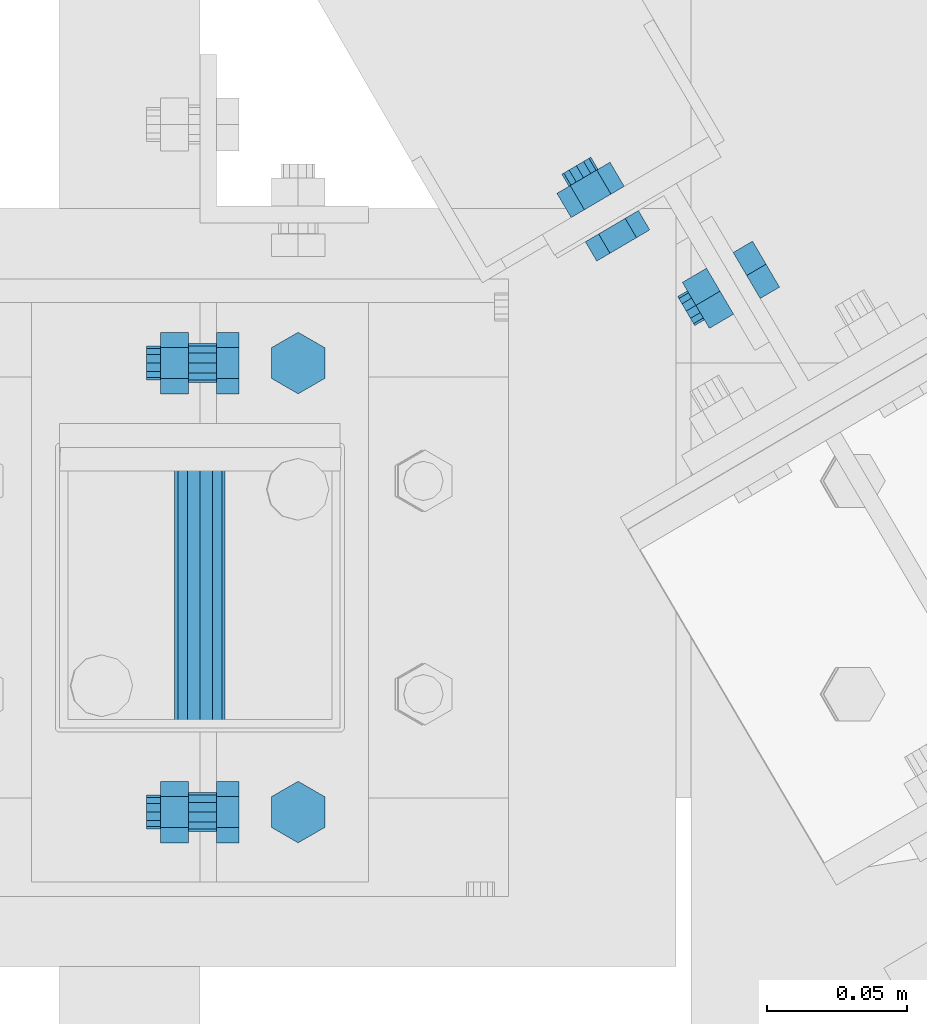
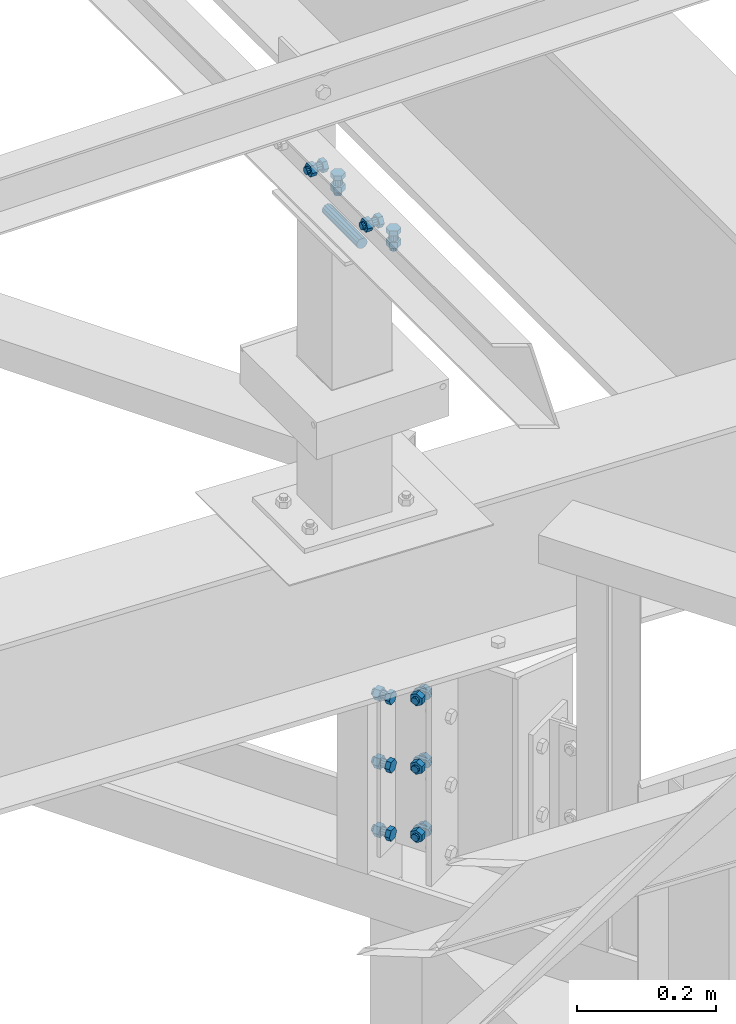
# One storey, part 12 of 3134: 5 mechanical fasteners, 3 elements without a shape of their own.
"""IFC2X3 building model written with IfcOpenShell, lengths in millimetres."""

from ifc_helpers import new_model, si_unit, frame, origin_with_axes, place, context, subcontext, project, spatial, faceted_brep, source, transform, mapped, material, type_object, element, aggregate, save


model = new_model("IFC2X3")

# Units and contexts
model_context = context("Model", 3, precision=1e-05, world=origin_with_axes())
body_context = subcontext(model_context, "Body", "Model", "MODEL_VIEW")
ifc_project = project(units=[si_unit("LENGTHUNIT", "METRE", prefix="MILLI"), si_unit("AREAUNIT", "SQUARE_METRE"), si_unit("VOLUMEUNIT", "CUBIC_METRE"), si_unit("MASSUNIT", "GRAM", prefix="KILO"), si_unit("TIMEUNIT", "SECOND"), si_unit("PLANEANGLEUNIT", "RADIAN"), si_unit("SOLIDANGLEUNIT", "STERADIAN"), si_unit("THERMODYNAMICTEMPERATUREUNIT", "DEGREE_CELSIUS"), si_unit("LUMINOUSINTENSITYUNIT", "LUMEN")], contexts=[model_context])

# Site, building, storey
site_placement = place(None, origin_with_axes())
site = spatial("IfcSite", under=ifc_project, at=site_placement, CompositionType="ELEMENT")
building_placement = place(site_placement, origin_with_axes())
building = spatial("IfcBuilding", under=site, at=building_placement, Name="Undefined", CompositionType="ELEMENT")
storey_placement = place(building_placement, origin_with_axes())
storey = spatial("IfcBuildingStorey", under=building, at=storey_placement, Name="Undefined", CompositionType="ELEMENT", Elevation=0.0)

# Assembly, mechanical fastener
assembly_1_placement = place(storey_placement, origin_with_axes())
assembly_1 = element("IfcElementAssembly", 1, at=assembly_1_placement, inside=storey, AssemblyPlace="NOTDEFINED", PredefinedType="RIGID_FRAME")
ifc_material = material(Name="8.8")
mechanical_fastener_type = type_object("IfcMechanicalFastenerType", Name="Bolt assembly")
shared_shape_1 = source(origin_with_axes(), body_context, "Body", "Brep", [
    faceted_brep([(10.9696551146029, -14.0, 0.0), (5.48482755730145, -14.0, 9.5), (-5.48482755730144, -14.0, 9.5), (-10.9696551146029, -14.0, 1.34339530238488e-15), (-5.48482755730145, -14.0, -9.5), (5.48482755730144, -14.0, -9.50000000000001), (5.48482755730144, -6.0, -9.50000000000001), (-5.48482755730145, -6.0, -9.5), (-10.9696551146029, -6.0, 1.34339530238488e-15), (-5.48482755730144, -6.0, 9.5), (5.48482755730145, -6.0, 9.5), (10.9696551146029, -6.0, 0.0), (6.0, -6.0, 0.0), (5.19615242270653, -6.0, 3.00000000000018), (2.99999999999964, -6.0, 5.19615242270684), (-6.21801588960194e-13, -6.0, 6.0), (-3.00000000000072, -6.0, 5.19615242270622), (-5.19615242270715, -6.0, 2.9999999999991), (-6.0, -6.0, -1.24360317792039e-12), (-5.19615242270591, -6.0, -3.00000000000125), (-2.99999999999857, -6.0, -5.19615242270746), (1.85874342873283e-12, -6.0, -6.0), (3.00000000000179, -6.0, -5.1961524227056), (5.19615242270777, -6.0, -2.99999999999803), (5.19615242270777, 24.0, -2.99999999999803), (3.00000000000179, 24.0, -5.1961524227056), (1.85874342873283e-12, 24.0, -6.0), (-2.99999999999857, 24.0, -5.19615242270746), (-5.19615242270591, 24.0, -3.00000000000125), (-6.0, 24.0, -1.24360317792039e-12), (-5.19615242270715, 24.0, 2.9999999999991), (-3.00000000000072, 24.0, 5.19615242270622), (-6.21801588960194e-13, 24.0, 6.0), (2.99999999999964, 24.0, 5.19615242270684), (5.19615242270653, 24.0, 3.00000000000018), (6.0, 24.0, 0.0), (10.9696551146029, 6.00000000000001, 0.0), (5.48482755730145, 6.00000000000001, 9.5), (-5.48482755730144, 6.00000000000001, 9.5), (-10.9696551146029, 6.00000000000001, 1.34339530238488e-15), (-5.48482755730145, 6.00000000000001, -9.5), (5.48482755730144, 6.00000000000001, -9.50000000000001), (5.48482755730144, 16.0, -9.50000000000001), (-5.48482755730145, 16.0, -9.5), (-10.9696551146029, 16.0, 1.34339530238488e-15), (-5.48482755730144, 16.0, 9.5), (5.48482755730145, 16.0, 9.5), (10.9696551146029, 16.0, 0.0)], [[[0, 1, 2, 3, 4, 5]], [[6, 7, 8, 9, 10, 11]], [[0, 11, 10, 1]], [[1, 10, 9, 2]], [[2, 9, 8, 3]], [[3, 8, 7, 4]], [[4, 7, 6, 5]], [[5, 6, 11, 0]], [[12, 13, 14, 15, 16, 17, 18, 19, 20, 21, 22, 23]], [[24, 25, 26, 27, 28, 29, 30, 31, 32, 33, 34, 35]], [[12, 35, 34, 13]], [[13, 34, 33, 14]], [[14, 33, 32, 15]], [[15, 32, 31, 16]], [[16, 31, 30, 17]], [[17, 30, 29, 18]], [[18, 29, 28, 19]], [[19, 28, 27, 20]], [[20, 27, 26, 21]], [[21, 26, 25, 22]], [[22, 25, 24, 23]], [[23, 24, 35, 12]], [[36, 37, 38, 39, 40, 41]], [[42, 43, 44, 45, 46, 47]], [[36, 47, 46, 37]], [[37, 46, 45, 38]], [[38, 45, 44, 39]], [[39, 44, 43, 40]], [[40, 43, 42, 41]], [[41, 42, 47, 36]]]),
    faceted_brep([(7.0, -5.9, 0.0), (6.06217782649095, -5.9, 3.50000000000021), (3.49999999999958, -5.9, 6.06217782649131), (-7.25435187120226e-13, -5.9, 7.0), (-3.50000000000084, -5.9, 6.06217782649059), (-6.06217782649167, -5.9, 3.49999999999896), (-7.0, -5.9, -1.45087037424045e-12), (-6.06217782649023, -5.9, -3.50000000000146), (-3.49999999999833, -5.9, -6.06217782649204), (2.1685340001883e-12, -5.9, -7.0), (3.50000000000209, -5.9, -6.06217782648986), (6.0621778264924, -5.9, -3.4999999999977), (6.0621778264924, 0.0999999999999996, -3.4999999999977), (3.50000000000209, 0.0999999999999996, -6.06217782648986), (2.1685340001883e-12, 0.0999999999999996, -7.0), (-3.49999999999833, 0.0999999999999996, -6.06217782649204), (-6.06217782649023, 0.0999999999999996, -3.50000000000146), (-7.0, 0.0999999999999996, -1.45087037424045e-12), (-6.06217782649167, 0.0999999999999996, 3.49999999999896), (-3.50000000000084, 0.0999999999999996, 6.06217782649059), (-7.25435187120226e-13, 0.0999999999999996, 7.0), (3.49999999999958, 0.0999999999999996, 6.06217782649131), (6.06217782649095, 0.0999999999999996, 3.50000000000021), (7.0, 0.0999999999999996, 0.0), (7.0, -0.1, 0.0), (6.06217782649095, -0.1, 3.50000000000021), (3.49999999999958, -0.1, 6.06217782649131), (-7.25435187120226e-13, -0.1, 7.0), (-3.50000000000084, -0.1, 6.06217782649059), (-6.06217782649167, -0.1, 3.49999999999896), (-7.0, -0.1, -1.45087037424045e-12), (-6.06217782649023, -0.1, -3.50000000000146), (-3.49999999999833, -0.1, -6.06217782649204), (2.1685340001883e-12, -0.1, -7.0), (3.50000000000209, -0.1, -6.06217782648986), (6.0621778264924, -0.1, -3.4999999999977), (6.0621778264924, 6.00000000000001, -3.4999999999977), (3.50000000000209, 6.00000000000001, -6.06217782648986), (2.1685340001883e-12, 6.00000000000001, -7.0), (-3.49999999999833, 6.00000000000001, -6.06217782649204), (-6.06217782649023, 6.00000000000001, -3.50000000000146), (-7.0, 6.00000000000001, -1.45087037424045e-12), (-6.06217782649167, 6.00000000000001, 3.49999999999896), (-3.50000000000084, 6.00000000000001, 6.06217782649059), (-7.25435187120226e-13, 6.00000000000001, 7.0), (3.49999999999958, 6.00000000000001, 6.06217782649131), (6.06217782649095, 6.00000000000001, 3.50000000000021), (7.0, 6.00000000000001, 0.0)], [[[0, 1, 2, 3, 4, 5, 6, 7, 8, 9, 10, 11]], [[12, 13, 14, 15, 16, 17, 18, 19, 20, 21, 22, 23]], [[0, 23, 22, 1]], [[1, 22, 21, 2]], [[2, 21, 20, 3]], [[3, 20, 19, 4]], [[4, 19, 18, 5]], [[5, 18, 17, 6]], [[6, 17, 16, 7]], [[7, 16, 15, 8]], [[8, 15, 14, 9]], [[9, 14, 13, 10]], [[10, 13, 12, 11]], [[11, 12, 23, 0]], [[24, 25, 26, 27, 28, 29, 30, 31, 32, 33, 34, 35]], [[36, 37, 38, 39, 40, 41, 42, 43, 44, 45, 46, 47]], [[24, 47, 46, 25]], [[25, 46, 45, 26]], [[26, 45, 44, 27]], [[27, 44, 43, 28]], [[28, 43, 42, 29]], [[29, 42, 41, 30]], [[30, 41, 40, 31]], [[31, 40, 39, 32]], [[32, 39, 38, 33]], [[33, 38, 37, 34]], [[34, 37, 36, 35]], [[35, 36, 47, 24]]]),
])
mechanical_fastener_1_placement = place(assembly_1_placement, frame((8375.0, 10850.0, 4265.0), z_axis=(-1.0, 0.0, 0.0), x_axis=(0.0, 1.0, 0.0)))
mechanical_fastener_1 = element("IfcMechanicalFastener", 2, at=mechanical_fastener_1_placement, type_object=mechanical_fastener_type, material=ifc_material, Name="Bolt assembly", NominalDiameter=12.0, NominalLength=30.0, context=body_context, shape_type="MappedRepresentation", body=[
    mapped(shared_shape_1, transform((0.0, 0.0, 0.0))),
    mapped(shared_shape_1, transform((160.0, 0.0, 0.0))),
])

assembly_2_placement = place(storey_placement, origin_with_axes())
assembly_2 = element("IfcElementAssembly", 3, at=assembly_2_placement, inside=storey, AssemblyPlace="NOTDEFINED", PredefinedType="RIGID_FRAME")
shared_shape_2 = source(origin_with_axes(), body_context, "Body", "Brep", [
    faceted_brep([(10.9696551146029, -14.0, 0.0), (5.48482755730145, -14.0, 9.5), (-5.48482755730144, -14.0, 9.5), (-10.9696551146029, -14.0, 1.34339530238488e-15), (-5.48482755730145, -14.0, -9.5), (5.48482755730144, -14.0, -9.50000000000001), (5.48482755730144, -6.0, -9.50000000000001), (-5.48482755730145, -6.0, -9.5), (-10.9696551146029, -6.0, 1.34339530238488e-15), (-5.48482755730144, -6.0, 9.5), (5.48482755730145, -6.0, 9.5), (10.9696551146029, -6.0, 0.0), (6.0, -6.0, 0.0), (5.19615242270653, -6.0, 3.00000000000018), (2.99999999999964, -6.0, 5.19615242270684), (-6.21801588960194e-13, -6.0, 6.0), (-3.00000000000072, -6.0, 5.19615242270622), (-5.19615242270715, -6.0, 2.9999999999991), (-6.0, -6.0, -1.24360317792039e-12), (-5.19615242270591, -6.0, -3.00000000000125), (-2.99999999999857, -6.0, -5.19615242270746), (1.85874342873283e-12, -6.0, -6.0), (3.00000000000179, -6.0, -5.1961524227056), (5.19615242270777, -6.0, -2.99999999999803), (5.19615242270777, 19.0, -2.99999999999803), (3.00000000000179, 19.0, -5.1961524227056), (1.85874342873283e-12, 19.0, -6.0), (-2.99999999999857, 19.0, -5.19615242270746), (-5.19615242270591, 19.0, -3.00000000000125), (-6.0, 19.0, -1.24360317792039e-12), (-5.19615242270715, 19.0, 2.9999999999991), (-3.00000000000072, 19.0, 5.19615242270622), (-6.21801588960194e-13, 19.0, 6.0), (2.99999999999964, 19.0, 5.19615242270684), (5.19615242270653, 19.0, 3.00000000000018), (6.0, 19.0, 0.0), (10.9696551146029, 4.00000000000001, 0.0), (5.48482755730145, 4.00000000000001, 9.5), (-5.48482755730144, 4.00000000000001, 9.5), (-10.9696551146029, 4.00000000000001, 1.34339530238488e-15), (-5.48482755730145, 4.00000000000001, -9.5), (5.48482755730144, 4.00000000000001, -9.50000000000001), (5.48482755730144, 14.0, -9.50000000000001), (-5.48482755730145, 14.0, -9.5), (-10.9696551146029, 14.0, 1.34339530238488e-15), (-5.48482755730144, 14.0, 9.5), (5.48482755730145, 14.0, 9.5), (10.9696551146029, 14.0, 0.0)], [[[0, 1, 2, 3, 4, 5]], [[6, 7, 8, 9, 10, 11]], [[0, 11, 10, 1]], [[1, 10, 9, 2]], [[2, 9, 8, 3]], [[3, 8, 7, 4]], [[4, 7, 6, 5]], [[5, 6, 11, 0]], [[12, 13, 14, 15, 16, 17, 18, 19, 20, 21, 22, 23]], [[24, 25, 26, 27, 28, 29, 30, 31, 32, 33, 34, 35]], [[12, 35, 34, 13]], [[13, 34, 33, 14]], [[14, 33, 32, 15]], [[15, 32, 31, 16]], [[16, 31, 30, 17]], [[17, 30, 29, 18]], [[18, 29, 28, 19]], [[19, 28, 27, 20]], [[20, 27, 26, 21]], [[21, 26, 25, 22]], [[22, 25, 24, 23]], [[23, 24, 35, 12]], [[36, 37, 38, 39, 40, 41]], [[42, 43, 44, 45, 46, 47]], [[36, 47, 46, 37]], [[37, 46, 45, 38]], [[38, 45, 44, 39]], [[39, 44, 43, 40]], [[40, 43, 42, 41]], [[41, 42, 47, 36]]]),
    faceted_brep([(7.0, -0.1, 0.0), (6.06217782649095, -0.1, 3.50000000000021), (3.49999999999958, -0.1, 6.06217782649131), (-7.25435187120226e-13, -0.1, 7.0), (-3.50000000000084, -0.1, 6.06217782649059), (-6.06217782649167, -0.1, 3.49999999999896), (-7.0, -0.1, -1.45087037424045e-12), (-6.06217782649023, -0.1, -3.50000000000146), (-3.49999999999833, -0.1, -6.06217782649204), (2.1685340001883e-12, -0.1, -7.0), (3.50000000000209, -0.1, -6.06217782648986), (6.0621778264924, -0.1, -3.4999999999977), (6.0621778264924, 4.00000000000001, -3.4999999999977), (3.50000000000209, 4.00000000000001, -6.06217782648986), (2.1685340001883e-12, 4.00000000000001, -7.0), (-3.49999999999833, 4.00000000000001, -6.06217782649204), (-6.06217782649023, 4.00000000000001, -3.50000000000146), (-7.0, 4.00000000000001, -1.45087037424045e-12), (-6.06217782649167, 4.00000000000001, 3.49999999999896), (-3.50000000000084, 4.00000000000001, 6.06217782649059), (-7.25435187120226e-13, 4.00000000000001, 7.0), (3.49999999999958, 4.00000000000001, 6.06217782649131), (6.06217782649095, 4.00000000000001, 3.50000000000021), (7.0, 4.00000000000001, 0.0), (7.0, -5.9, 0.0), (6.06217782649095, -5.9, 3.50000000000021), (3.49999999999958, -5.9, 6.06217782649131), (-7.25435187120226e-13, -5.9, 7.0), (-3.50000000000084, -5.9, 6.06217782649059), (-6.06217782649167, -5.9, 3.49999999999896), (-7.0, -5.9, -1.45087037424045e-12), (-6.06217782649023, -5.9, -3.50000000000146), (-3.49999999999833, -5.9, -6.06217782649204), (2.1685340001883e-12, -5.9, -7.0), (3.50000000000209, -5.9, -6.06217782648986), (6.0621778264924, -5.9, -3.4999999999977), (6.0621778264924, 0.0999999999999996, -3.4999999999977), (3.50000000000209, 0.0999999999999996, -6.06217782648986), (2.1685340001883e-12, 0.0999999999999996, -7.0), (-3.49999999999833, 0.0999999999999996, -6.06217782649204), (-6.06217782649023, 0.0999999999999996, -3.50000000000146), (-7.0, 0.0999999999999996, -1.45087037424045e-12), (-6.06217782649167, 0.0999999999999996, 3.49999999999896), (-3.50000000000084, 0.0999999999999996, 6.06217782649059), (-7.25435187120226e-13, 0.0999999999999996, 7.0), (3.49999999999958, 0.0999999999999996, 6.06217782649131), (6.06217782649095, 0.0999999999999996, 3.50000000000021), (7.0, 0.0999999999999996, 0.0)], [[[0, 1, 2, 3, 4, 5, 6, 7, 8, 9, 10, 11]], [[12, 13, 14, 15, 16, 17, 18, 19, 20, 21, 22, 23]], [[0, 23, 22, 1]], [[1, 22, 21, 2]], [[2, 21, 20, 3]], [[3, 20, 19, 4]], [[4, 19, 18, 5]], [[5, 18, 17, 6]], [[6, 17, 16, 7]], [[7, 16, 15, 8]], [[8, 15, 14, 9]], [[9, 14, 13, 10]], [[10, 13, 12, 11]], [[11, 12, 23, 0]], [[24, 25, 26, 27, 28, 29, 30, 31, 32, 33, 34, 35]], [[36, 37, 38, 39, 40, 41, 42, 43, 44, 45, 46, 47]], [[24, 47, 46, 25]], [[25, 46, 45, 26]], [[26, 45, 44, 27]], [[27, 44, 43, 28]], [[28, 43, 42, 29]], [[29, 42, 41, 30]], [[30, 41, 40, 31]], [[31, 40, 39, 32]], [[32, 39, 38, 33]], [[33, 38, 37, 34]], [[34, 37, 36, 35]], [[35, 36, 47, 24]]]),
])
mechanical_fastener_2_placement = place(assembly_2_placement, frame((8340.0, 10850.0, 4300.0), z_axis=(0.0, 0.0, 1.0), x_axis=(0.0, 1.0, 0.0)))
mechanical_fastener_2 = element("IfcMechanicalFastener", 4, at=mechanical_fastener_2_placement, type_object=mechanical_fastener_type, material=ifc_material, Name="Bolt assembly", NominalDiameter=12.0, NominalLength=25.0, context=body_context, shape_type="MappedRepresentation", body=[
    mapped(shared_shape_2, transform((0.0, 0.0, 0.0))),
    mapped(shared_shape_2, transform((160.0, 0.0, 0.0))),
])
aggregate(assembly_2, [mechanical_fastener_2])

# Assembly, mechanical fasteners
assembly_3_placement = place(storey_placement, origin_with_axes())
assembly_3 = element("IfcElementAssembly", 5, at=assembly_3_placement, inside=storey, AssemblyPlace="NOTDEFINED", PredefinedType="RIGID_FRAME")
shared_shape_3 = source(origin_with_axes(), body_context, "Body", "Brep", [
    faceted_brep([(10.9696551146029, -10.499999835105, 0.0), (5.48482755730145, -10.499999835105, 9.5), (-5.48482755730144, -10.499999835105, 9.5), (-10.9696551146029, -10.499999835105, 1.34339530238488e-15), (-5.48482755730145, -10.499999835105, -9.5), (5.48482755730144, -10.499999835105, -9.50000000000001), (5.48482755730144, -2.49999983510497, -9.50000000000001), (-5.48482755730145, -2.49999983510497, -9.5), (-10.9696551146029, -2.49999983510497, 1.34339530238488e-15), (-5.48482755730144, -2.49999983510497, 9.5), (5.48482755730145, -2.49999983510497, 9.5), (10.9696551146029, -2.49999983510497, 0.0), (6.0, -2.49999983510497, 0.0), (5.19615242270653, -2.49999983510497, 3.00000000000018), (2.99999999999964, -2.49999983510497, 5.19615242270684), (-6.21801588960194e-13, -2.49999983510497, 6.0), (-3.00000000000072, -2.49999983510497, 5.19615242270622), (-5.19615242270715, -2.49999983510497, 2.9999999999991), (-6.0, -2.49999983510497, -1.24360317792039e-12), (-5.19615242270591, -2.49999983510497, -3.00000000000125), (-2.99999999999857, -2.49999983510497, -5.19615242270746), (1.85874342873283e-12, -2.49999983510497, -6.0), (3.00000000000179, -2.49999983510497, -5.1961524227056), (5.19615242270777, -2.49999983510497, -2.99999999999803), (5.19615242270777, 22.5, -2.99999999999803), (3.00000000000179, 22.5, -5.1961524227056), (1.85874342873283e-12, 22.5, -6.0), (-2.99999999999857, 22.5, -5.19615242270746), (-5.19615242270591, 22.5, -3.00000000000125), (-6.0, 22.5, -1.24360317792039e-12), (-5.19615242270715, 22.5, 2.9999999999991), (-3.00000000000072, 22.5, 5.19615242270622), (-6.21801588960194e-13, 22.5, 6.0), (2.99999999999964, 22.5, 5.19615242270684), (5.19615242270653, 22.5, 3.00000000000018), (6.0, 22.5, 0.0), (10.9696551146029, 8.50153105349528, 0.0), (5.48482755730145, 8.50153105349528, 9.5), (-5.48482755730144, 8.50153105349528, 9.5), (-10.9696551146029, 8.50153105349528, 1.34339530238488e-15), (-5.48482755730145, 8.50153105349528, -9.5), (5.48482755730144, 8.50153105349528, -9.50000000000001), (5.48482755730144, 18.5015310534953, -9.50000000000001), (-5.48482755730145, 18.5015310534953, -9.5), (-10.9696551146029, 18.5015310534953, 1.34339530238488e-15), (-5.48482755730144, 18.5015310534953, 9.5), (5.48482755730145, 18.5015310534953, 9.5), (10.9696551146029, 18.5015310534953, 0.0)], [[[0, 1, 2, 3, 4, 5]], [[6, 7, 8, 9, 10, 11]], [[0, 11, 10, 1]], [[1, 10, 9, 2]], [[2, 9, 8, 3]], [[3, 8, 7, 4]], [[4, 7, 6, 5]], [[5, 6, 11, 0]], [[12, 13, 14, 15, 16, 17, 18, 19, 20, 21, 22, 23]], [[24, 25, 26, 27, 28, 29, 30, 31, 32, 33, 34, 35]], [[12, 35, 34, 13]], [[13, 34, 33, 14]], [[14, 33, 32, 15]], [[15, 32, 31, 16]], [[16, 31, 30, 17]], [[17, 30, 29, 18]], [[18, 29, 28, 19]], [[19, 28, 27, 20]], [[20, 27, 26, 21]], [[21, 26, 25, 22]], [[22, 25, 24, 23]], [[23, 24, 35, 12]], [[36, 37, 38, 39, 40, 41]], [[42, 43, 44, 45, 46, 47]], [[36, 47, 46, 37]], [[37, 46, 45, 38]], [[38, 45, 44, 39]], [[39, 44, 43, 40]], [[40, 43, 42, 41]], [[41, 42, 47, 36]]]),
    faceted_brep([(7.0, -2.39999983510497, 7.0), (6.46715672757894, -2.39999983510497, 9.6787840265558), (4.94974746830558, -2.39999983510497, 11.9497474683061), (-7.25435187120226e-13, -2.39999983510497, 14.0), (-3.50000000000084, -2.39999983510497, 13.0621778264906), (-6.06217782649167, -2.39999983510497, 10.499999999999), (-7.0, -2.39999983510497, 6.99999999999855), (-7.0, -2.39999983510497, -7.00000000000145), (-6.06217782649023, -2.39999983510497, -10.5000000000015), (-3.49999999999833, -2.39999983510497, -13.062177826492), (2.1685340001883e-12, -2.39999983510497, -14.0), (3.50000000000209, -2.39999983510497, -13.0621778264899), (6.0621778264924, -2.39999983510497, -10.4999999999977), (7.0, -2.39999983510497, -6.9999999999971), (7.0, 2.60000016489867, -6.9999999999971), (6.0621778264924, 2.60000016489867, -10.4999999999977), (3.50000000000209, 2.60000016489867, -13.0621778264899), (2.1685340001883e-12, 2.60000016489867, -14.0), (-3.49999999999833, 2.60000016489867, -13.062177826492), (-6.06217782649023, 2.60000016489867, -10.5000000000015), (-7.0, 2.60000016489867, -7.00000000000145), (-7.0, 2.60000016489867, 6.99999999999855), (-6.06217782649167, 2.60000016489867, 10.499999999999), (-3.50000000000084, 2.60000016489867, 13.0621778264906), (-7.25435187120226e-13, 2.60000016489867, 14.0), (2.67878402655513, 2.60000016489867, 13.4671567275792), (4.94974746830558, 2.60000016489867, 11.9497474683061), (6.46715672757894, 2.60000016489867, 9.6787840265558), (7.0, 2.60000016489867, 7.0), (2.67878402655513, -2.39999983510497, 13.4671567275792), (7.0, 2.4015310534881, 0.0), (6.06217782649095, 2.4015310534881, 3.50000000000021), (3.49999999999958, 2.4015310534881, 6.06217782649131), (-7.25435187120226e-13, 2.4015310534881, 7.0), (-3.50000000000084, 2.4015310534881, 6.06217782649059), (-6.06217782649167, 2.4015310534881, 3.49999999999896), (-7.0, 2.4015310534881, -1.45087037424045e-12), (-6.06217782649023, 2.4015310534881, -3.50000000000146), (-3.49999999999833, 2.4015310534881, -6.06217782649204), (2.1685340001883e-12, 2.4015310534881, -7.0), (3.50000000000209, 2.4015310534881, -6.06217782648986), (6.0621778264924, 2.4015310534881, -3.4999999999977), (6.0621778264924, 8.50153105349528, -3.4999999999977), (3.50000000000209, 8.50153105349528, -6.06217782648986), (2.1685340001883e-12, 8.50153105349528, -7.0), (-3.49999999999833, 8.50153105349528, -6.06217782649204), (-6.06217782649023, 8.50153105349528, -3.50000000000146), (-7.0, 8.50153105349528, -1.45087037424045e-12), (-6.06217782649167, 8.50153105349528, 3.49999999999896), (-3.50000000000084, 8.50153105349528, 6.06217782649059), (-7.25435187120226e-13, 8.50153105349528, 7.0), (3.49999999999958, 8.50153105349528, 6.06217782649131), (6.06217782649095, 8.50153105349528, 3.50000000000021), (7.0, 8.50153105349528, 0.0)], [[[0, 1, 2, 3, 4, 5, 6, 7, 8, 9, 10, 11, 12, 13]], [[14, 15, 16, 17, 18, 19, 20, 21, 22, 23, 24, 25, 26, 27, 28]], [[0, 28, 27, 1]], [[1, 27, 26, 2]], [[2, 26, 25, 29]], [[29, 25, 24, 3]], [[3, 24, 23, 4]], [[4, 23, 22, 5]], [[5, 22, 21, 6]], [[6, 21, 20, 7]], [[7, 20, 19, 8]], [[8, 19, 18, 9]], [[9, 18, 17, 10]], [[10, 17, 16, 11]], [[11, 16, 15, 12]], [[12, 15, 14, 13]], [[13, 14, 28, 0]], [[30, 31, 32, 33, 34, 35, 36, 37, 38, 39, 40, 41]], [[42, 43, 44, 45, 46, 47, 48, 49, 50, 51, 52, 53]], [[30, 53, 52, 31]], [[31, 52, 51, 32]], [[32, 51, 50, 33]], [[33, 50, 49, 34]], [[34, 49, 48, 35]], [[35, 48, 47, 36]], [[36, 47, 46, 37]], [[37, 46, 45, 38]], [[38, 45, 44, 39]], [[39, 44, 43, 40]], [[40, 43, 42, 41]], [[41, 42, 53, 30]]]),
])
mechanical_fastener_3_placement = place(assembly_3_placement, frame((8532.68663669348, 11039.9279909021, 3290.00065963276), z_axis=(-0.50664692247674, 0.862153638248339, 0.0), x_axis=(0.0, 0.0, -1.0)))
mechanical_fastener_3 = element("IfcMechanicalFastener", 6, at=mechanical_fastener_3_placement, type_object=mechanical_fastener_type, material=ifc_material, Name="Bolt assembly", NominalDiameter=12.0, NominalLength=25.0, context=body_context, shape_type="MappedRepresentation", body=[
    mapped(shared_shape_3, transform((0.0, 0.0, 0.0))),
    mapped(shared_shape_3, transform((120.0, 0.0, 0.0))),
    mapped(shared_shape_3, transform((240.0, 0.0, 0.0))),
])
shared_shape_4 = source(origin_with_axes(), body_context, "Body", "Brep", [
    faceted_brep([(10.9696551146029, -12.9921290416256, 0.0), (5.48482755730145, -12.9921290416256, 9.5), (-5.48482755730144, -12.9921290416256, 9.5), (-10.9696551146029, -12.9921290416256, 1.34339530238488e-15), (-5.48482755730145, -12.9921290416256, -9.5), (5.48482755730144, -12.9921290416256, -9.50000000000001), (5.48482755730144, -4.99212904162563, -9.50000000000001), (-5.48482755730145, -4.99212904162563, -9.5), (-10.9696551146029, -4.99212904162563, 1.34339530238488e-15), (-5.48482755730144, -4.99212904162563, 9.5), (5.48482755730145, -4.99212904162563, 9.5), (10.9696551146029, -4.99212904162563, 0.0), (6.0, -4.99212904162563, 0.0), (5.19615242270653, -4.99212904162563, 3.00000000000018), (2.99999999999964, -4.99212904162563, 5.19615242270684), (-6.21801588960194e-13, -4.99212904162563, 6.0), (-3.00000000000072, -4.99212904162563, 5.19615242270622), (-5.19615242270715, -4.99212904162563, 2.9999999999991), (-6.0, -4.99212904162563, -1.24360317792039e-12), (-5.19615242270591, -4.99212904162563, -3.00000000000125), (-2.99999999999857, -4.99212904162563, -5.19615242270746), (1.85874342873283e-12, -4.99212904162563, -6.0), (3.00000000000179, -4.99212904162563, -5.1961524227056), (5.19615242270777, -4.99212904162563, -2.99999999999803), (5.19615242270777, 20.0078709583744, -2.99999999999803), (3.00000000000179, 20.0078709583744, -5.1961524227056), (1.85874342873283e-12, 20.0078709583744, -6.0), (-2.99999999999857, 20.0078709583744, -5.19615242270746), (-5.19615242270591, 20.0078709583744, -3.00000000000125), (-6.0, 20.0078709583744, -1.24360317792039e-12), (-5.19615242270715, 20.0078709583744, 2.9999999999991), (-3.00000000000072, 20.0078709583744, 5.19615242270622), (-6.21801588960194e-13, 20.0078709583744, 6.0), (2.99999999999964, 20.0078709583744, 5.19615242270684), (5.19615242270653, 20.0078709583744, 3.00000000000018), (6.0, 20.0078709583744, 0.0), (10.9696551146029, 4.99983928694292, 0.0), (5.48482755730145, 4.99983928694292, 9.5), (-5.48482755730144, 4.99983928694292, 9.5), (-10.9696551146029, 4.99983928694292, 1.34339530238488e-15), (-5.48482755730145, 4.99983928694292, -9.5), (5.48482755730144, 4.99983928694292, -9.50000000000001), (5.48482755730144, 14.9998392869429, -9.50000000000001), (-5.48482755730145, 14.9998392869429, -9.5), (-10.9696551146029, 14.9998392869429, 1.34339530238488e-15), (-5.48482755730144, 14.9998392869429, 9.5), (5.48482755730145, 14.9998392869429, 9.5), (10.9696551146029, 14.9998392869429, 0.0)], [[[0, 1, 2, 3, 4, 5]], [[6, 7, 8, 9, 10, 11]], [[0, 11, 10, 1]], [[1, 10, 9, 2]], [[2, 9, 8, 3]], [[3, 8, 7, 4]], [[4, 7, 6, 5]], [[5, 6, 11, 0]], [[12, 13, 14, 15, 16, 17, 18, 19, 20, 21, 22, 23]], [[24, 25, 26, 27, 28, 29, 30, 31, 32, 33, 34, 35]], [[12, 35, 34, 13]], [[13, 34, 33, 14]], [[14, 33, 32, 15]], [[15, 32, 31, 16]], [[16, 31, 30, 17]], [[17, 30, 29, 18]], [[18, 29, 28, 19]], [[19, 28, 27, 20]], [[20, 27, 26, 21]], [[21, 26, 25, 22]], [[22, 25, 24, 23]], [[23, 24, 35, 12]], [[36, 37, 38, 39, 40, 41]], [[42, 43, 44, 45, 46, 47]], [[36, 47, 46, 37]], [[37, 46, 45, 38]], [[38, 45, 44, 39]], [[39, 44, 43, 40]], [[40, 43, 42, 41]], [[41, 42, 47, 36]]]),
    faceted_brep([(7.0, 0.89983928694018, 0.0), (6.06217782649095, 0.89983928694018, 3.50000000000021), (3.49999999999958, 0.89983928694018, 6.06217782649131), (-7.25435187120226e-13, 0.89983928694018, 7.0), (-3.50000000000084, 0.89983928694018, 6.06217782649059), (-6.06217782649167, 0.89983928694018, 3.49999999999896), (-7.0, 0.89983928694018, -1.45087037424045e-12), (-6.06217782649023, 0.89983928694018, -3.50000000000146), (-3.49999999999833, 0.89983928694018, -6.06217782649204), (2.1685340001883e-12, 0.89983928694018, -7.0), (3.50000000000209, 0.89983928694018, -6.06217782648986), (6.0621778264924, 0.89983928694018, -3.4999999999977), (6.0621778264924, 4.99983928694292, -3.4999999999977), (3.50000000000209, 4.99983928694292, -6.06217782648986), (2.1685340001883e-12, 4.99983928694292, -7.0), (-3.49999999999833, 4.99983928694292, -6.06217782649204), (-6.06217782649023, 4.99983928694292, -3.50000000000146), (-7.0, 4.99983928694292, -1.45087037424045e-12), (-6.06217782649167, 4.99983928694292, 3.49999999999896), (-3.50000000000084, 4.99983928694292, 6.06217782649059), (-7.25435187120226e-13, 4.99983928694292, 7.0), (3.49999999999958, 4.99983928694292, 6.06217782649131), (6.06217782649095, 4.99983928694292, 3.50000000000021), (7.0, 4.99983928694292, 0.0), (7.0, -4.89212904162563, 0.0), (6.06217782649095, -4.89212904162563, 3.50000000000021), (3.49999999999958, -4.89212904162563, 6.06217782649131), (-7.25435187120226e-13, -4.89212904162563, 7.0), (-3.50000000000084, -4.89212904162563, 6.06217782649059), (-6.06217782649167, -4.89212904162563, 3.49999999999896), (-7.0, -4.89212904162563, -1.45087037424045e-12), (-6.06217782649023, -4.89212904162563, -3.50000000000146), (-3.49999999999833, -4.89212904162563, -6.06217782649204), (2.1685340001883e-12, -4.89212904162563, -7.0), (3.50000000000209, -4.89212904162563, -6.06217782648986), (6.0621778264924, -4.89212904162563, -3.4999999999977), (6.0621778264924, 1.10787095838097, -3.4999999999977), (3.50000000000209, 1.10787095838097, -6.06217782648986), (2.1685340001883e-12, 1.10787095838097, -7.0), (-3.49999999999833, 1.10787095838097, -6.06217782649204), (-6.06217782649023, 1.10787095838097, -3.50000000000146), (-7.0, 1.10787095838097, -1.45087037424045e-12), (-6.06217782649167, 1.10787095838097, 3.49999999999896), (-3.50000000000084, 1.10787095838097, 6.06217782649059), (-7.25435187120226e-13, 1.10787095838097, 7.0), (3.49999999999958, 1.10787095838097, 6.06217782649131), (6.06217782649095, 1.10787095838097, 3.50000000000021), (7.0, 1.10787095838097, 0.0)], [[[0, 1, 2, 3, 4, 5, 6, 7, 8, 9, 10, 11]], [[12, 13, 14, 15, 16, 17, 18, 19, 20, 21, 22, 23]], [[0, 23, 22, 1]], [[1, 22, 21, 2]], [[2, 21, 20, 3]], [[3, 20, 19, 4]], [[4, 19, 18, 5]], [[5, 18, 17, 6]], [[6, 17, 16, 7]], [[7, 16, 15, 8]], [[8, 15, 14, 9]], [[9, 14, 13, 10]], [[10, 13, 12, 11]], [[11, 12, 23, 0]], [[24, 25, 26, 27, 28, 29, 30, 31, 32, 33, 34, 35]], [[36, 37, 38, 39, 40, 41, 42, 43, 44, 45, 46, 47]], [[24, 47, 46, 25]], [[25, 46, 45, 26]], [[26, 45, 44, 27]], [[27, 44, 43, 28]], [[28, 43, 42, 29]], [[29, 42, 41, 30]], [[30, 41, 40, 31]], [[31, 40, 39, 32]], [[32, 39, 38, 33]], [[33, 38, 37, 34]], [[34, 37, 36, 35]], [[35, 36, 47, 24]]]),
])
mechanical_fastener_4_placement = place(assembly_3_placement, frame((8484.27823731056, 11063.0910074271, 3170.0), z_axis=(0.0, 0.0, 1.0), x_axis=(0.862153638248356, 0.506646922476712, 0.0)))
mechanical_fastener_4 = element("IfcMechanicalFastener", 7, at=mechanical_fastener_4_placement, type_object=mechanical_fastener_type, material=ifc_material, Name="Bolt assembly", NominalDiameter=12.0, NominalLength=25.0, context=body_context, shape_type="MappedRepresentation", body=[
    mapped(shared_shape_4, transform((0.0, 0.0, -120.0))),
    mapped(shared_shape_4, transform((0.0, 0.0, 0.0))),
    mapped(shared_shape_4, transform((0.0, 0.0, 120.0))),
])
aggregate(assembly_3, [mechanical_fastener_3, mechanical_fastener_4])

# Mechanical fastener
shared_shape_5 = source(origin_with_axes(), body_context, "Body", "Brep", [
    faceted_brep([(9.0, -50.0, 0.0), (7.79422863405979, -50.0, 4.50000000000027), (4.49999999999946, -50.0, 7.79422863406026), (-9.3270238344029e-13, -50.0, 9.0), (-4.50000000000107, -50.0, 7.79422863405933), (-7.79422863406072, -50.0, 4.49999999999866), (-9.0, -50.0, -1.86540476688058e-12), (-7.79422863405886, -50.0, -4.50000000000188), (-4.49999999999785, -50.0, -7.79422863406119), (2.78811514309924e-12, -50.0, -9.0), (4.50000000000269, -50.0, -7.7942286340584), (7.79422863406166, -50.0, -4.49999999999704), (7.79422863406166, 50.1, -4.49999999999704), (4.50000000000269, 50.1, -7.7942286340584), (2.78811514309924e-12, 50.1, -9.0), (-4.49999999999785, 50.1, -7.79422863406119), (-7.79422863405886, 50.1, -4.50000000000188), (-9.0, 50.1, -1.86540476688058e-12), (-7.79422863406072, 50.1, 4.49999999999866), (-4.50000000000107, 50.1, 7.79422863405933), (-9.3270238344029e-13, 50.1, 9.0), (4.49999999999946, 50.1, 7.79422863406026), (7.79422863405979, 50.1, 4.50000000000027), (9.0, 50.1, 0.0)], [[[0, 1, 2, 3, 4, 5, 6, 7, 8, 9, 10, 11]], [[12, 13, 14, 15, 16, 17, 18, 19, 20, 21, 22, 23]], [[0, 23, 22, 1]], [[1, 22, 21, 2]], [[2, 21, 20, 3]], [[3, 20, 19, 4]], [[4, 19, 18, 5]], [[5, 18, 17, 6]], [[6, 17, 16, 7]], [[7, 16, 15, 8]], [[8, 15, 14, 9]], [[9, 14, 13, 10]], [[10, 13, 12, 11]], [[11, 12, 23, 0]]]),
])
mechanical_fastener_5_placement = place(assembly_1_placement, frame((8340.0, 10930.0, 4245.0), z_axis=(-1.0, 0.0, 0.0), x_axis=(0.0, 0.0, 1.0)))
mechanical_fastener_5 = element("IfcMechanicalFastener", 8, at=mechanical_fastener_5_placement, type_object=mechanical_fastener_type, material=ifc_material, Name="Bolt assembly", NominalDiameter=16.0, NominalLength=100.0, context=body_context, shape_type="MappedRepresentation", body=[
    mapped(shared_shape_5, transform((0.0, 0.0, 0.0))),
])

aggregate(assembly_1, [mechanical_fastener_1, mechanical_fastener_5])

save(model, "model.ifc")
